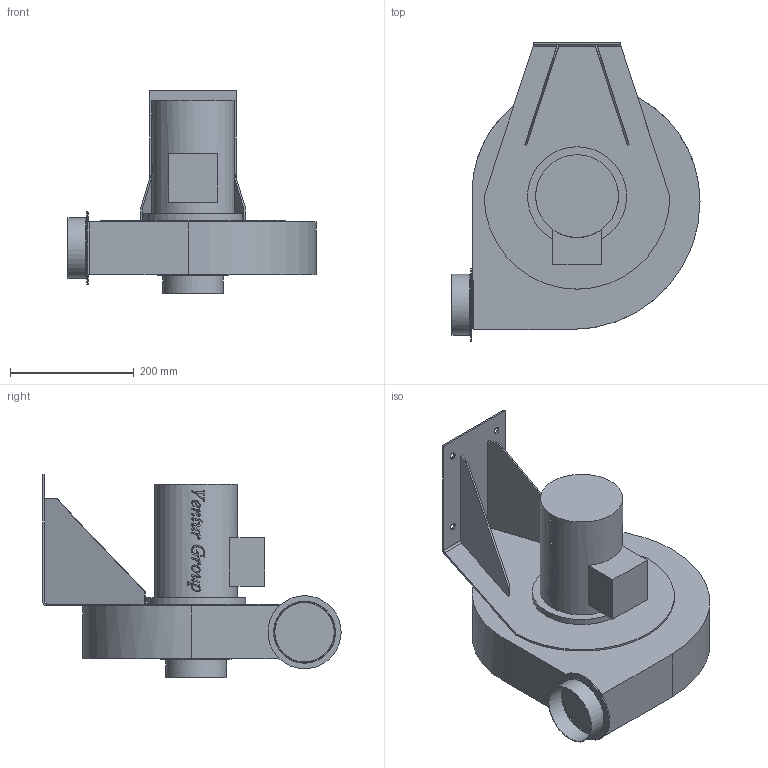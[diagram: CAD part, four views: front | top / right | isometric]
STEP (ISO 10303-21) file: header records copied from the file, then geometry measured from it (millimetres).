
FILE_DESCRIPTION(/* description */ (''),/* implementation_level */ '2;1');
FILE_NAME(/* name */ 'E:\Mariusz\Modele uproszczone\GMT\GMT_60_037x RD90 42551510\GMT_60_037x RD90 42551510\GMT_60_037x RD90 42551510.stp',/* time_stamp */ '2018-05-29T15:18:48+02:00',/* author */ ('M.Janczarek'),/* organization */ (''),/* preprocessor_version */ 'ST-DEVELOPER v16.5',/* originating_system */ 'Autodesk Inventor 2017',/* authorisation */ '');
FILE_SCHEMA (('AUTOMOTIVE_DESIGN { 1 0 10303 214 3 1 1 }'));
Length unit declared in the file: millimetre
Products named in the file (1): GMT_60_037x RD90 42551510
Bounding box: 400.55 x 481.61 x 328.61 mm (x, y, z)
Volume: 14039452 mm3; surface area: 659148.3 mm2
Topology: 1 solids, 1 shells, 567 faces, 1621 edges, 1080 vertices
Faces by surface type: bspline 391, plane 105, cylinder 68, torus 3
Full cylindrical faces by diameter (mm): 11 x4, 96 x2, 98 x2, 115 x1, 118 x1, 133.6 x1, 160 x1
Entity records: 25143 total; most frequent: CARTESIAN_POINT 13012, ORIENTED_EDGE 3090, EDGE_CURVE 1545, DIRECTION 1373, VERTEX_POINT 1038, B_SPLINE_CURVE_WITH_KNOTS 690, LINE 675, VECTOR 675
